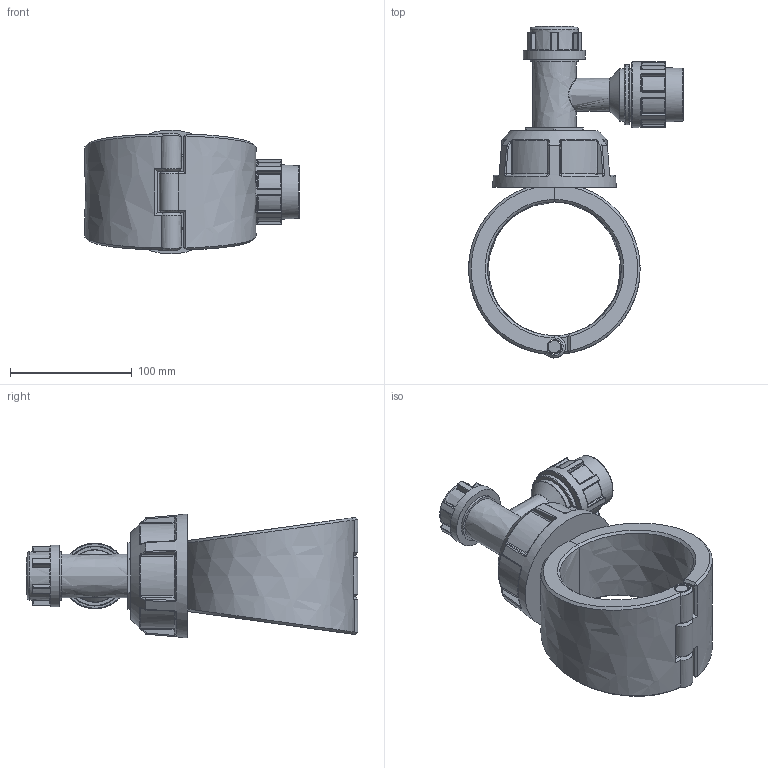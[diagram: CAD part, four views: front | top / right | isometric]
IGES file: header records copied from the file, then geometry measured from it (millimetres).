
Global section: file name: 163100110025_1631061100250A; native system: Autodesk Inventor 2019; preprocessor: unknown; author: comp2; date: 20220203.115736; units: millimetre
Bounding box: 176.47 x 273 x 101.97 mm (x, y, z)
Volume: 967446.5 mm3; surface area: 139993.4 mm2
Topology: 4 solids, 4 shells, 519 faces, 1253 edges, 754 vertices
Faces by surface type: bspline 519
